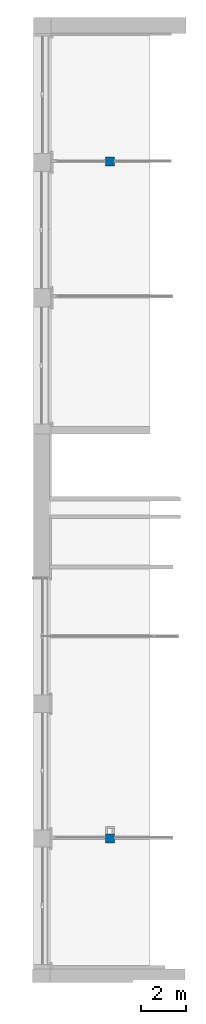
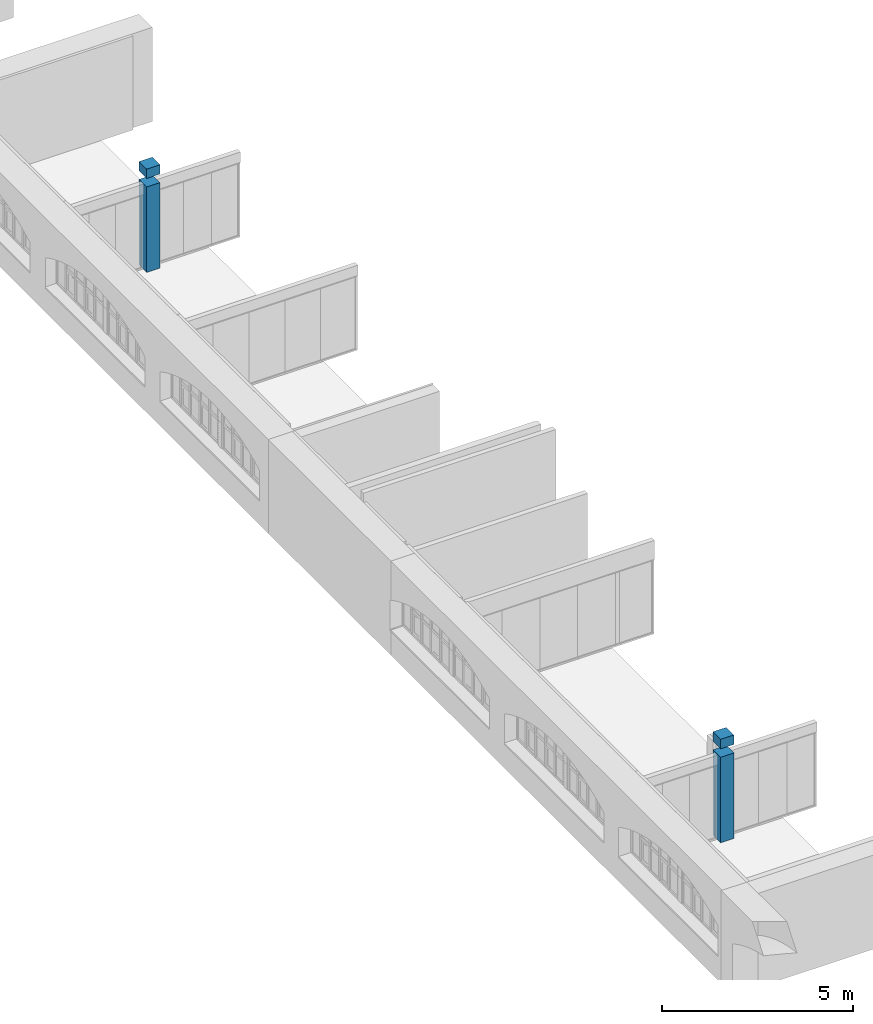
# One storey, part 1 of 32: 2 columns.
"""IFC2X3 building model written with IfcOpenShell, lengths in millimetres."""

import ifcopenshell
import ifcopenshell.guid

model = None  # the IFC model being written
_history = None  # IfcOwnerHistory: only IFC2X3 demands one
_inside = {}  # id of a spatial element -> (the spatial element, [elements in it])
_under = {}  # id of a project, library or spatial element -> (it, [spatial elements below it])
_declared = {}  # id of a project -> (the project, [libraries it declares])
_typed = {}  # id of a type object -> (the type object, [elements of that type])
_made_of = {}  # id of a material, layer set ... -> (it, [elements and type objects made of it])


def new_model(schema):
    """Start an empty IFC model of exactly this schema.

    Asked for "IFC4X3", IfcOpenShell would pick the latest addendum, in which some entities
    have other attributes; the version numbers below select the first issue.
    IFC2X3 requires an IfcOwnerHistory on every rooted entity: one is made here for all.
    """
    global model, _history
    if schema == "IFC4X3":
        model = ifcopenshell.file(schema_version=(4, 3, 0, 0))
    else:
        model = ifcopenshell.file(schema=schema)
    _inside.clear()
    _under.clear()
    _declared.clear()
    _typed.clear()
    _made_of.clear()
    _history = None
    if model.schema == "IFC2X3":
        org = make("IfcOrganization", Name="unknown")
        user = make(
            "IfcPersonAndOrganization",
            ThePerson=make("IfcPerson", FamilyName="unknown"),
            TheOrganization=org,
        )
        app = make(
            "IfcApplication",
            ApplicationDeveloper=org,
            Version="unknown",
            ApplicationFullName="unknown",
            ApplicationIdentifier="unknown",
        )
        _history = make(
            "IfcOwnerHistory",
            OwningUser=user,
            OwningApplication=app,
            ChangeAction="ADDED",
            CreationDate=0,
        )
    return model


def make(cls, **values):
    """One entity of the class cls with the attributes given. An attribute that is None is left unset."""
    return model.create_entity(
        cls, **{name: value for name, value in values.items() if value is not None}
    )


def entity(cls, *values):
    """Any entity or typed value of the class cls, its attributes in the order of the schema. None: left unset."""
    e = model.create_entity(cls)
    for i, value in enumerate(values):
        if value is not None:
            e[i] = value
    return e


def rooted(cls, **values):
    """An entity with a GlobalId (a new one), such as an element, a storey or a relation."""
    return make(cls, GlobalId=ifcopenshell.guid.new(), OwnerHistory=_history, **values)


def si_unit(unit_type, name, prefix=None):
    """IfcSIUnit, for example si_unit("LENGTHUNIT", "METRE", prefix="MILLI")."""
    return make("IfcSIUnit", UnitType=unit_type, Prefix=prefix, Name=name)


def converted_unit(unit_type, name, factor, base, dimensions=None, offset=None):
    """IfcConversionBasedUnit, such as the inch: factor (a typed value) times the base unit."""
    return make(
        "IfcConversionBasedUnit"
        if offset is None
        else "IfcConversionBasedUnitWithOffset",
        ConversionOffset=offset,
        Dimensions=None
        if dimensions is None
        else entity("IfcDimensionalExponents", *dimensions),
        UnitType=unit_type,
        Name=name,
        ConversionFactor=make(
            "IfcMeasureWithUnit", ValueComponent=factor, UnitComponent=base
        ),
    )


def derived_unit(unit_type, elements):
    """IfcDerivedUnit: a product of units, each with its exponent."""
    return make(
        "IfcDerivedUnit",
        Elements=[
            make("IfcDerivedUnitElement", Unit=unit, Exponent=power)
            for unit, power in elements
        ],
        UnitType=unit_type,
    )


def assignment(units):
    """IfcUnitAssignment: the units of a project."""
    return None if units is None else make("IfcUnitAssignment", Units=units)


def point(xyz):
    """IfcCartesianPoint."""
    return None if xyz is None else make("IfcCartesianPoint", Coordinates=xyz)


def direction(xyz):
    """IfcDirection."""
    return None if xyz is None else make("IfcDirection", DirectionRatios=xyz)


def frame(location, z_axis=None, x_axis=None):
    """IfcAxis2Placement3D, a coordinate frame: its origin and axes. An axis left out is left unset."""
    return make(
        "IfcAxis2Placement3D",
        Location=point(location),
        Axis=direction(z_axis),
        RefDirection=direction(x_axis),
    )


def frame_2d(location, x_axis=None):
    """IfcAxis2Placement2D, a coordinate frame in the plane: its origin and x axis."""
    return make(
        "IfcAxis2Placement2D", Location=point(location), RefDirection=direction(x_axis)
    )


def origin():
    """The frame at (0, 0, 0) with its axes left unset."""
    return frame((0.0, 0.0, 0.0))


def place(relative_to, where):
    """IfcLocalPlacement: puts the frame where relative to a parent placement (None: the world)."""
    return make(
        "IfcLocalPlacement", PlacementRelTo=relative_to, RelativePlacement=where
    )


def context(
    kind, dimensions, precision=None, world=None, true_north=None, identifier=None
):
    """IfcGeometricRepresentationContext, for example the 3D "Model" context."""
    return make(
        "IfcGeometricRepresentationContext",
        ContextIdentifier=identifier,
        ContextType=kind,
        CoordinateSpaceDimension=dimensions,
        Precision=precision,
        WorldCoordinateSystem=world,
        TrueNorth=true_north,
    )


def subcontext(parent, identifier, kind, view, scale=None):
    """IfcGeometricRepresentationSubContext, for example "Body" below "Model"."""
    return make(
        "IfcGeometricRepresentationSubContext",
        ContextIdentifier=identifier,
        ContextType=kind,
        ParentContext=parent,
        TargetScale=scale,
        TargetView=view,
    )


def project(units=None, contexts=None):
    """IfcProject with its units and contexts."""
    return rooted(
        "IfcProject",
        Name="project",
        RepresentationContexts=contexts,
        UnitsInContext=assignment(units),
    )


def spatial(cls, under=None, at=None, **own):
    """A site, building, storey or space (cls), placed at a placement, below another one or the project."""
    s = rooted(cls, ObjectPlacement=at, **own)
    if under is not None:
        _under.setdefault(under.id(), (under, []))[1].append(s)
    return s


def profile(cls, at=None, kind="AREA", **sizes):
    """A parametric profile (cls). Its sizes go by their IFC names, for example OverallWidth=200.0."""
    return make(cls, ProfileType=kind, Position=at, **sizes)


def rectangle(**sizes):
    """IfcRectangleProfileDef."""
    return profile("IfcRectangleProfileDef", **sizes)


def extrude(swept, where, along, depth):
    """IfcExtrudedAreaSolid: the profile swept, set in the frame where, extruded along a direction by depth."""
    return make(
        "IfcExtrudedAreaSolid",
        SweptArea=swept,
        Position=where,
        ExtrudedDirection=direction(along),
        Depth=depth,
    )


def shape(context_of_items, identifier, shape_type, items):
    """IfcShapeRepresentation: the items that make up one representation, for example the "Body"."""
    return make(
        "IfcShapeRepresentation",
        ContextOfItems=context_of_items,
        RepresentationIdentifier=identifier,
        RepresentationType=shape_type,
        Items=items,
    )


def source(mapping_origin, context_of_items, identifier, shape_type, items):
    """IfcRepresentationMap: a shape defined once, which mapped items show again and again."""
    return make(
        "IfcRepresentationMap",
        MappingOrigin=mapping_origin,
        MappedRepresentation=shape(context_of_items, identifier, shape_type, items),
    )


def transform(
    local_origin,
    x_axis=None,
    y_axis=None,
    z_axis=None,
    scale=None,
    scale2=None,
    scale3=None,
    uniform=True,
):
    """IfcCartesianTransformationOperator3D, or its non-uniform kind. x_axis, y_axis, z_axis: its Axis1, 2, 3."""
    if uniform:
        return make(
            "IfcCartesianTransformationOperator3D",
            Axis1=direction(x_axis),
            Axis2=direction(y_axis),
            LocalOrigin=point(local_origin),
            Scale=scale,
            Axis3=direction(z_axis),
        )
    return make(
        "IfcCartesianTransformationOperator3DnonUniform",
        Axis1=direction(x_axis),
        Axis2=direction(y_axis),
        LocalOrigin=point(local_origin),
        Scale=scale,
        Axis3=direction(z_axis),
        Scale2=scale2,
        Scale3=scale3,
    )


def mapped(mapping_source, mapping_target):
    """IfcMappedItem: shows the shape of a source again, moved by a transform."""
    return make(
        "IfcMappedItem", MappingSource=mapping_source, MappingTarget=mapping_target
    )


def material(Name=None, Category=None):
    """IfcMaterial."""
    return make("IfcMaterial", Name=Name, Category=Category)


def made_of(thing, what):
    """Note that an element or type object is made of a material, layer set ...; save() writes the relation."""
    if what is not None:
        _made_of.setdefault(what.id(), (what, []))[1].append(thing)
    return thing


def type_object(cls, material=None, **own):
    """A type object (cls), such as IfcWallType, which elements share."""
    return made_of(rooted(cls, **own), material)


def type_shapes(of_type, sources):
    """Give a type object the sources (RepresentationMaps) that its elements show as mapped items."""
    of_type.RepresentationMaps = sources


def element(
    cls,
    number,
    at=None,
    inside=None,
    cuts=None,
    type_object=None,
    material=None,
    context=None,
    identifier="Body",
    shape_type=None,
    held_by="IfcProductDefinitionShape",
    body=None,
    shapes=None,
    **own,
):
    """One element of the class cls, such as IfcWall. Its Tag is "e" and its number.

    at: its placement. inside: the storey or other place that contains it. cuts: it is an
    opening in that element (IfcRelVoidsElement). A single representation is given by context,
    identifier, shape_type and body (its items); several are given by shapes. held_by: the class
    of the entity that holds the representations. save() writes the other relations.
    """
    e = rooted(cls, Tag="e%d" % number, ObjectPlacement=at, **own)
    if body is not None:
        shapes = [shape(context, identifier, shape_type, body)]
    if shapes is not None:
        e.Representation = make(held_by, Representations=shapes)
    if inside is not None:
        _inside.setdefault(inside.id(), (inside, []))[1].append(e)
    if cuts is not None:
        rooted(
            "IfcRelVoidsElement", RelatingBuildingElement=cuts, RelatedOpeningElement=e
        )
    if type_object is not None:
        _typed.setdefault(type_object.id(), (type_object, []))[1].append(e)
    return made_of(e, material)


def aggregate(whole, parts):
    """IfcRelAggregates: a whole, such as a stair, and the parts it consists of."""
    return rooted("IfcRelAggregates", RelatingObject=whole, RelatedObjects=parts)


def save(model, path):
    """Write the relations noted so far, then the file.

    IfcRelAggregates (storeys below a building ...), IfcRelContainedInSpatialStructure (elements
    in a storey), IfcRelDefinesByType, IfcRelAssociatesMaterial and IfcRelDeclares: one each for
    every whole, place, type object, material and project.
    """
    for whole, parts in _under.values():
        aggregate(whole, parts)
    for where, things in _inside.values():
        rooted(
            "IfcRelContainedInSpatialStructure",
            RelatedElements=things,
            RelatingStructure=where,
        )
    for kind, things in _typed.values():
        rooted("IfcRelDefinesByType", RelatedObjects=things, RelatingType=kind)
    for what, things in _made_of.values():
        rooted("IfcRelAssociatesMaterial", RelatedObjects=things, RelatingMaterial=what)
    for by, libraries in _declared.values():
        rooted("IfcRelDeclares", RelatingContext=by, RelatedDefinitions=libraries)
    model.write(path)


model = new_model("IFC2X3")

# Units and contexts
model_context = context("Model", 3, precision=0.01, world=origin(), true_north=direction((6.123031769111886e-17, 1.0)))
body_context = subcontext(model_context, "Body", "Model", "MODEL_VIEW")
ifc_project = project(units=[si_unit("LENGTHUNIT", "METRE", prefix="MILLI"), si_unit("AREAUNIT", "SQUARE_METRE"), si_unit("VOLUMEUNIT", "CUBIC_METRE"), converted_unit("PLANEANGLEUNIT", "DEGREE", entity("IfcPlaneAngleMeasure", 0.017453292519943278), si_unit("PLANEANGLEUNIT", "RADIAN"), dimensions=[0, 0, 0, 0, 0, 0, 0]), si_unit("MASSUNIT", "GRAM", prefix="KILO"), derived_unit("MASSDENSITYUNIT", [(si_unit("MASSUNIT", "GRAM", prefix="KILO"), 1), (si_unit("LENGTHUNIT", "METRE"), -3)]), derived_unit("IONCONCENTRATIONUNIT", [(si_unit("MASSUNIT", "GRAM", prefix="KILO"), 1), (si_unit("LENGTHUNIT", "METRE"), -3)]), derived_unit("MOMENTOFINERTIAUNIT", [(si_unit("LENGTHUNIT", "METRE"), 4)]), si_unit("TIMEUNIT", "SECOND"), si_unit("FREQUENCYUNIT", "HERTZ"), si_unit("THERMODYNAMICTEMPERATUREUNIT", "DEGREE_CELSIUS"), derived_unit("THERMALTRANSMITTANCEUNIT", [(si_unit("MASSUNIT", "GRAM", prefix="KILO"), 1), (si_unit("THERMODYNAMICTEMPERATUREUNIT", "KELVIN"), -1), (si_unit("TIMEUNIT", "SECOND"), -3)]), derived_unit("THERMALCONDUCTANCEUNIT", [(si_unit("MASSUNIT", "GRAM", prefix="KILO"), 1), (si_unit("THERMODYNAMICTEMPERATUREUNIT", "KELVIN"), -1), (si_unit("TIMEUNIT", "SECOND"), -3), (si_unit("LENGTHUNIT", "METRE"), 1)]), derived_unit("VOLUMETRICFLOWRATEUNIT", [(si_unit("LENGTHUNIT", "METRE", prefix="DECI"), 3), (si_unit("TIMEUNIT", "SECOND"), -1)]), derived_unit("MASSFLOWRATEUNIT", [(si_unit("MASSUNIT", "GRAM", prefix="KILO"), 1), (si_unit("TIMEUNIT", "SECOND"), -1)]), derived_unit("ROTATIONALFREQUENCYUNIT", [(si_unit("TIMEUNIT", "SECOND"), -1)]), si_unit("ELECTRICCURRENTUNIT", "AMPERE"), si_unit("ELECTRICVOLTAGEUNIT", "VOLT"), si_unit("POWERUNIT", "WATT"), si_unit("FORCEUNIT", "NEWTON", prefix="KILO"), si_unit("ILLUMINANCEUNIT", "LUX"), si_unit("LUMINOUSFLUXUNIT", "LUMEN"), si_unit("LUMINOUSINTENSITYUNIT", "CANDELA"), si_unit("ENERGYUNIT", "JOULE"), derived_unit("USERDEFINED", [(si_unit("MASSUNIT", "GRAM", prefix="KILO"), -1), (si_unit("LENGTHUNIT", "METRE"), -2), (si_unit("TIMEUNIT", "SECOND"), 3), (si_unit("LUMINOUSFLUXUNIT", "LUMEN"), 1)]), derived_unit("USERDEFINED", [(si_unit("MASSUNIT", "GRAM", prefix="KILO"), 1), (si_unit("TIMEUNIT", "SECOND"), -3), (si_unit("LENGTHUNIT", "METRE"), 3), (si_unit("ELECTRICCURRENTUNIT", "AMPERE"), -2)]), derived_unit("SOUNDPOWERUNIT", [(si_unit("MASSUNIT", "GRAM", prefix="KILO"), 1), (si_unit("TIMEUNIT", "SECOND"), -3), (si_unit("LENGTHUNIT", "METRE"), 2)]), derived_unit("SOUNDPRESSUREUNIT", [(si_unit("MASSUNIT", "GRAM", prefix="KILO"), 1), (si_unit("LENGTHUNIT", "METRE"), -1), (si_unit("TIMEUNIT", "SECOND"), -2)]), derived_unit("LINEARVELOCITYUNIT", [(si_unit("LENGTHUNIT", "METRE"), 1), (si_unit("TIMEUNIT", "SECOND"), -1)]), si_unit("PRESSUREUNIT", "PASCAL"), derived_unit("USERDEFINED", [(si_unit("MASSUNIT", "GRAM", prefix="KILO"), 1), (si_unit("LENGTHUNIT", "METRE"), -2), (si_unit("TIMEUNIT", "SECOND"), -2)]), derived_unit("LINEARFORCEUNIT", [(si_unit("MASSUNIT", "GRAM", prefix="KILO"), 1), (si_unit("TIMEUNIT", "SECOND"), -2)]), derived_unit("PLANARFORCEUNIT", [(si_unit("MASSUNIT", "GRAM", prefix="KILO"), 1), (si_unit("LENGTHUNIT", "METRE"), -1), (si_unit("TIMEUNIT", "SECOND"), -2)]), derived_unit("SPECIFICHEATCAPACITYUNIT", [(si_unit("THERMODYNAMICTEMPERATUREUNIT", "KELVIN"), -1), (si_unit("LENGTHUNIT", "METRE"), 2), (si_unit("TIMEUNIT", "SECOND"), -2)]), derived_unit("HEATFLUXDENSITYUNIT", [(si_unit("MASSUNIT", "GRAM", prefix="KILO"), 1), (si_unit("TIMEUNIT", "SECOND"), -3)]), derived_unit("HEATINGVALUEUNIT", [(si_unit("LENGTHUNIT", "METRE"), 2), (si_unit("TIMEUNIT", "SECOND"), -2)]), derived_unit("VAPORPERMEABILITYUNIT", [(si_unit("LENGTHUNIT", "METRE"), -1), (si_unit("TIMEUNIT", "SECOND"), 1)]), derived_unit("DYNAMICVISCOSITYUNIT", [(si_unit("MASSUNIT", "GRAM", prefix="KILO"), 1), (si_unit("TIMEUNIT", "SECOND"), -1), (si_unit("LENGTHUNIT", "METRE"), -1)]), derived_unit("THERMALEXPANSIONCOEFFICIENTUNIT", [(si_unit("THERMODYNAMICTEMPERATUREUNIT", "KELVIN"), -1)]), derived_unit("MODULUSOFELASTICITYUNIT", [(si_unit("MASSUNIT", "GRAM", prefix="KILO"), 1), (si_unit("LENGTHUNIT", "METRE"), -1), (si_unit("TIMEUNIT", "SECOND"), -2)]), derived_unit("ISOTHERMALMOISTURECAPACITYUNIT", [(si_unit("MASSUNIT", "GRAM", prefix="KILO"), -1), (si_unit("LENGTHUNIT", "METRE"), 3)]), derived_unit("MOISTUREDIFFUSIVITYUNIT", [(si_unit("TIMEUNIT", "SECOND"), -1), (si_unit("LENGTHUNIT", "METRE"), 2)]), derived_unit("MASSPERLENGTHUNIT", [(si_unit("MASSUNIT", "GRAM", prefix="KILO"), 1), (si_unit("LENGTHUNIT", "METRE"), -1)]), derived_unit("THERMALRESISTANCEUNIT", [(si_unit("MASSUNIT", "GRAM", prefix="KILO"), -1), (si_unit("TIMEUNIT", "SECOND"), 3), (si_unit("THERMODYNAMICTEMPERATUREUNIT", "KELVIN"), 1)]), derived_unit("ACCELERATIONUNIT", [(si_unit("LENGTHUNIT", "METRE"), 1), (si_unit("TIMEUNIT", "SECOND"), -2)]), derived_unit("ANGULARVELOCITYUNIT", [(si_unit("TIMEUNIT", "SECOND"), -1), (si_unit("PLANEANGLEUNIT", "RADIAN"), 1)]), derived_unit("LINEARSTIFFNESSUNIT", [(si_unit("MASSUNIT", "GRAM", prefix="KILO"), 1), (si_unit("TIMEUNIT", "SECOND"), -2)]), derived_unit("WARPINGCONSTANTUNIT", [(si_unit("LENGTHUNIT", "METRE"), 6)]), derived_unit("LINEARMOMENTUNIT", [(si_unit("MASSUNIT", "GRAM", prefix="KILO"), 1), (si_unit("LENGTHUNIT", "METRE"), 1), (si_unit("TIMEUNIT", "SECOND"), -2)]), derived_unit("TORQUEUNIT", [(si_unit("MASSUNIT", "GRAM", prefix="KILO"), 1), (si_unit("LENGTHUNIT", "METRE"), 2), (si_unit("TIMEUNIT", "SECOND"), -2)])], contexts=[model_context])

# Site, building, storey
site_placement = place(None, origin())
site = spatial("IfcSite", under=ifc_project, at=site_placement, Name="Default", CompositionType="ELEMENT")
building_placement = place(site_placement, origin())
building = spatial("IfcBuilding", under=site, at=building_placement, Name="Eesti Rahvusraamatukogu hoone renoveerimise projekteerimistööd", CompositionType="ELEMENT")
storey_placement = place(building_placement, frame((0.0, 0.0, 4950.000000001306)))
storey = spatial("IfcBuildingStorey", under=building, at=storey_placement, Name="2. korrus", CompositionType="ELEMENT", Elevation=4950.000000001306)

# Columns
ifc_material = material(Name="ol. olev materjal")
column_type_1 = type_object("IfcColumnType", Name="Post, nelinurkne:ol. olev - 400x 400mm", PredefinedType="COLUMN", material=ifc_material)
shared_shape_1 = source(origin(), body_context, "Body", "SweptSolid", [
    extrude(rectangle(XDim=400.0, YDim=400.0, at=frame_2d((0.0, -2.1742607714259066e-12), x_axis=(1.0, 0.0))), frame((-33390.0, 12390.0, 7950.000000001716), z_axis=(0.0, 0.0, 1.0), x_axis=(0.0, -1.0, 0.0)), (0.0, 0.0, 1.0), 299.9999999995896),
    extrude(rectangle(XDim=400.0, YDim=400.0, at=frame_2d((-6.494360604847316e-12, 52.000000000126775), x_axis=(1.0, 0.0))), frame((-33390.0, 12442.0, 4950.000000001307), z_axis=(0.0, 0.0, 1.0), x_axis=(-1.0, 0.0, 0.0)), (0.0, 0.0, 1.0), 2729.9999999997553),
])
type_shapes(column_type_1, [shared_shape_1])
column_1_placement = place(storey_placement, frame((0.0, 0.0, -4950.000000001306)))
element("IfcColumn", 1, at=column_1_placement, inside=storey, type_object=column_type_1, material=ifc_material, Name="Post, nelinurkne:ol. olev - 400x 400mm", ObjectType="Post, nelinurkne:ol. olev - 400x 400mm", context=body_context, shape_type="MappedRepresentation", body=[
    mapped(shared_shape_1, transform((0.0, 0.0, 0.0), scale=1.0)),
])
column_type_2 = type_object("IfcColumnType", Name="Post, nelinurkne:ol. olev - 400x 400mm", PredefinedType="COLUMN", material=ifc_material)
shared_shape_2 = source(origin(), body_context, "Body", "SweptSolid", [
    extrude(rectangle(XDim=399.9999999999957, YDim=400.0, at=frame_2d((4.334310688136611e-12, 2.1742607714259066e-12), x_axis=(1.0, 0.0))), frame((-33390.0, 42390.0, 7950.000000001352), z_axis=(0.0, 0.0, 1.0), x_axis=(0.0, -1.0, 0.0)), (0.0, 0.0, 1.0), 299.99999999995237),
    extrude(rectangle(XDim=400.0, YDim=399.9999999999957, at=frame_2d((2.1742607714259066e-12, 15.000000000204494), x_axis=(1.0, 0.0))), frame((-33390.0, 42405.0, 4950.000000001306), z_axis=(0.0, 0.0, 1.0), x_axis=(-1.0, 0.0, 0.0)), (0.0, 0.0, 1.0), 2729.9999999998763),
])
type_shapes(column_type_2, [shared_shape_2])
column_2_placement = place(storey_placement, frame((0.0, 0.0, -4950.000000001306)))
element("IfcColumn", 2, at=column_2_placement, inside=storey, type_object=column_type_2, material=ifc_material, Name="Post, nelinurkne:ol. olev - 400x 400mm", ObjectType="Post, nelinurkne:ol. olev - 400x 400mm", context=body_context, shape_type="MappedRepresentation", body=[
    mapped(shared_shape_2, transform((0.0, 0.0, 0.0), scale=1.0)),
])

save(model, "model.ifc")
